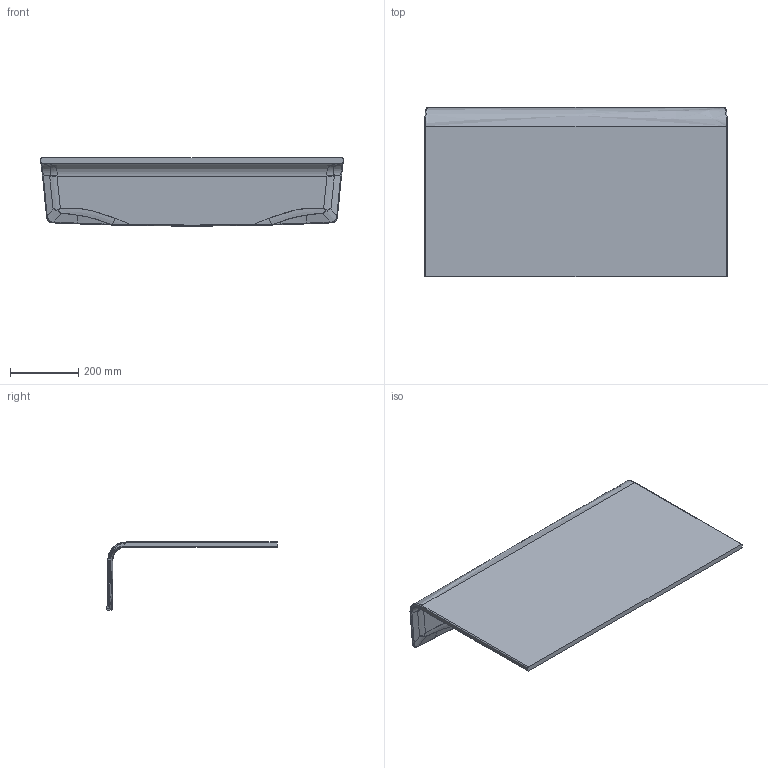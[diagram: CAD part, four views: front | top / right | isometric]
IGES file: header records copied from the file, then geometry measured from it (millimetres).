
Start section: SolidWorks IGES file using analytic representation for surfaces
Global section: file name: \\Logicserver\datos\01-VICCARBE\PRODUCTOS\53-SISTEMA\04-MODELADOS (PLANOS)\WEB\viccarbe-sistema-3D\IGS\Brazo tablero para asiento grueso.IGS; native system: SolidWorks 2013; preprocessor: SolidWorks 2013; author: bdisenyo; date: 170120.134632; units: millimetre
Bounding box: 890 x 500.01 x 200.05 mm (x, y, z)
Surface area: 1201339.8 mm2 (no closed solid volume)
Topology: 0 solids, 0 shells, 87 faces, 1022 edges, 1018 vertices
Faces by surface type: bspline 78, revolution 9
